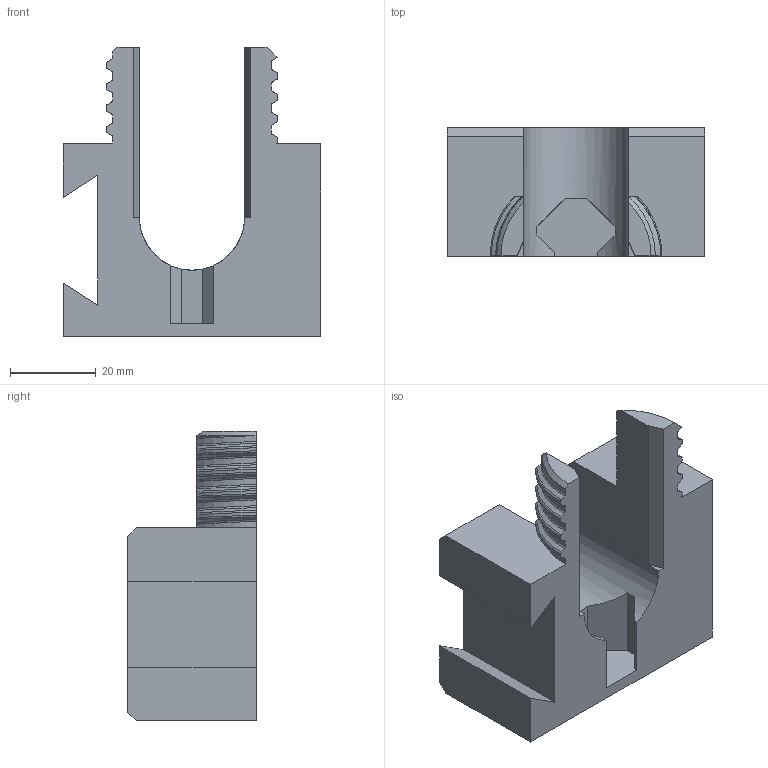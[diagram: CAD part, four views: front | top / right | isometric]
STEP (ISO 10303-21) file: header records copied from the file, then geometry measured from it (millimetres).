
FILE_DESCRIPTION (( 'STEP AP214' ), '1' );
FILE_NAME ('DS_v2B_DrziakPu.STEP', '2026-03-22T08:50:35', ( '' ), ( '' ), 'SwSTEP 2.0', 'SolidWorks 2026', '' );
FILE_SCHEMA (( 'AUTOMOTIVE_DESIGN' ));
Length unit declared in the file: millimetre
Products named in the file (1): DS_v2B_DrziakPu
Bounding box: 60 x 30 x 67.5 mm (x, y, z)
Volume: 55499.6 mm3; surface area: 14383.7 mm2
Topology: 1 solids, 1 shells, 117 faces, 323 edges, 208 vertices
Faces by surface type: bspline 63, plane 42, cylinder 10, cone 2
Entity records: 37852 total; most frequent: CARTESIAN_POINT 35641, ORIENTED_EDGE 646, EDGE_CURVE 323, DIRECTION 234, VERTEX_POINT 208, ADVANCED_FACE 117, EDGE_LOOP 117, FACE_OUTER_BOUND 117
